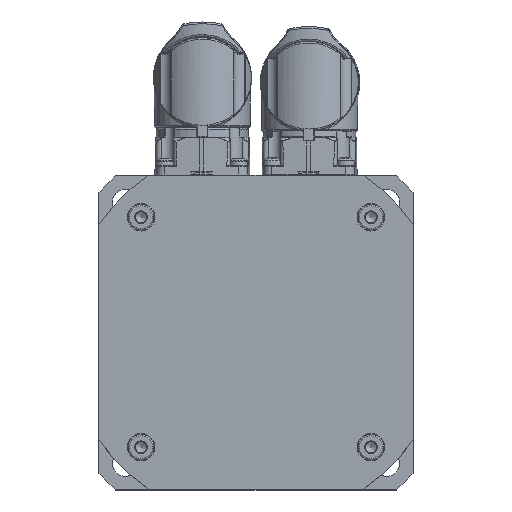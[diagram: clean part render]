
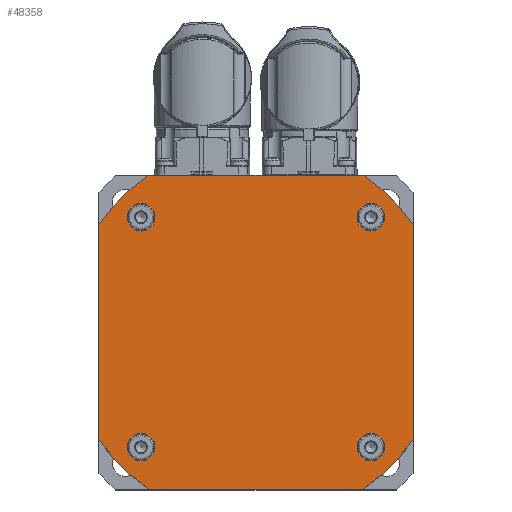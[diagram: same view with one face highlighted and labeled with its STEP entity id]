
A CAD part, top view. The second image highlights one B-rep face of the part: STEP entity #48358.
In plain terms, the highlighted planar face has unit normal (0, 0, 1).
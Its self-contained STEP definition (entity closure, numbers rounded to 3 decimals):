
#7391=LINE('',#70129,#9156);
#7397=LINE('',#70164,#9162);
#7400=LINE('',#70172,#9165);
#7404=LINE('',#70180,#9169);
#9156=VECTOR('',#57224,58.172);
#9162=VECTOR('',#57268,58.172);
#9165=VECTOR('',#57277,58.172);
#9169=VECTOR('',#57287,58.172);
#10887=PLANE('',#51540);
#11491=FACE_BOUND('',#15039,.T.);
#11492=FACE_BOUND('',#15040,.T.);
#11493=FACE_BOUND('',#15041,.T.);
#11494=FACE_BOUND('',#15042,.T.);
#11495=FACE_BOUND('',#15043,.T.);
#15039=EDGE_LOOP('',(#33265));
#15040=EDGE_LOOP('',(#33266));
#15041=EDGE_LOOP('',(#33267));
#15042=EDGE_LOOP('',(#33268));
#15043=EDGE_LOOP('',(#33269,#33270,#33271,#33272,#33273,#33274,#33275,#33276));
#18445=CIRCLE('',#51513,51.5);
#18446=CIRCLE('',#51516,3.75);
#18448=CIRCLE('',#51520,3.75);
#18450=CIRCLE('',#51524,3.75);
#18452=CIRCLE('',#51528,3.75);
#18454=CIRCLE('',#51532,51.5);
#18455=CIRCLE('',#51535,51.5);
#18456=CIRCLE('',#51538,51.5);
#21231=VERTEX_POINT('',#70122);
#21232=VERTEX_POINT('',#70124);
#21233=VERTEX_POINT('',#70128);
#21234=VERTEX_POINT('',#70133);
#21236=VERTEX_POINT('',#70139);
#21238=VERTEX_POINT('',#70145);
#21240=VERTEX_POINT('',#70151);
#21242=VERTEX_POINT('',#70157);
#21243=VERTEX_POINT('',#70159);
#21244=VERTEX_POINT('',#70166);
#21245=VERTEX_POINT('',#70171);
#21246=VERTEX_POINT('',#70175);
#25813=EDGE_CURVE('',#21232,#21231,#18445,.T.);
#25815=EDGE_CURVE('',#21233,#21232,#7391,.T.);
#25818=EDGE_CURVE('',#21234,#21234,#18446,.T.);
#25820=EDGE_CURVE('',#21236,#21236,#18448,.T.);
#25822=EDGE_CURVE('',#21238,#21238,#18450,.T.);
#25824=EDGE_CURVE('',#21240,#21240,#18452,.T.);
#25827=EDGE_CURVE('',#21243,#21242,#18454,.T.);
#25830=EDGE_CURVE('',#21231,#21243,#7397,.T.);
#25831=EDGE_CURVE('',#21244,#21233,#18455,.T.);
#25834=EDGE_CURVE('',#21245,#21244,#7400,.T.);
#25836=EDGE_CURVE('',#21246,#21245,#18456,.T.);
#25839=EDGE_CURVE('',#21242,#21246,#7404,.T.);
#33265=ORIENTED_EDGE('',*,*,#25818,.T.);
#33266=ORIENTED_EDGE('',*,*,#25820,.T.);
#33267=ORIENTED_EDGE('',*,*,#25822,.T.);
#33268=ORIENTED_EDGE('',*,*,#25824,.T.);
#33269=ORIENTED_EDGE('',*,*,#25839,.T.);
#33270=ORIENTED_EDGE('',*,*,#25836,.T.);
#33271=ORIENTED_EDGE('',*,*,#25834,.T.);
#33272=ORIENTED_EDGE('',*,*,#25831,.T.);
#33273=ORIENTED_EDGE('',*,*,#25815,.T.);
#33274=ORIENTED_EDGE('',*,*,#25813,.T.);
#33275=ORIENTED_EDGE('',*,*,#25830,.T.);
#33276=ORIENTED_EDGE('',*,*,#25827,.T.);
#48358=ADVANCED_FACE('',(#11491,#11492,#11493,#11494,#11495),#10887,.T.);
#51513=AXIS2_PLACEMENT_3D('',#70125,#57219,#57220);
#51516=AXIS2_PLACEMENT_3D('',#70134,#57229,#57230);
#51520=AXIS2_PLACEMENT_3D('',#70140,#57237,#57238);
#51524=AXIS2_PLACEMENT_3D('',#70146,#57245,#57246);
#51528=AXIS2_PLACEMENT_3D('',#70152,#57253,#57254);
#51532=AXIS2_PLACEMENT_3D('',#70160,#57262,#57263);
#51535=AXIS2_PLACEMENT_3D('',#70167,#57271,#57272);
#51538=AXIS2_PLACEMENT_3D('',#70176,#57281,#57282);
#51540=AXIS2_PLACEMENT_3D('',#70181,#57288,#57289);
#57219=DIRECTION('center_axis',(0.,0.,1.));
#57220=DIRECTION('ref_axis',(0.565,-0.825,0.));
#57224=DIRECTION('',(1.,0.,0.));
#57229=DIRECTION('center_axis',(0.,0.,-1.));
#57230=DIRECTION('ref_axis',(0.,-1.,0.));
#57237=DIRECTION('center_axis',(0.,0.,-1.));
#57238=DIRECTION('ref_axis',(-1.,0.,0.));
#57245=DIRECTION('center_axis',(0.,0.,-1.));
#57246=DIRECTION('ref_axis',(0.,1.,0.));
#57253=DIRECTION('center_axis',(0.,0.,-1.));
#57254=DIRECTION('ref_axis',(1.,0.,0.));
#57262=DIRECTION('center_axis',(0.,0.,1.));
#57263=DIRECTION('ref_axis',(0.825,0.565,0.));
#57268=DIRECTION('',(0.,1.,0.));
#57271=DIRECTION('center_axis',(0.,0.,1.));
#57272=DIRECTION('ref_axis',(-0.825,-0.565,0.));
#57277=DIRECTION('',(0.,-1.,0.));
#57281=DIRECTION('center_axis',(0.,0.,1.));
#57282=DIRECTION('ref_axis',(-0.565,0.825,0.));
#57287=DIRECTION('',(-1.,0.,0.));
#57288=DIRECTION('center_axis',(0.,0.,1.));
#57289=DIRECTION('ref_axis',(1.,0.,0.));
#70122=CARTESIAN_POINT('',(42.5,-29.086,130.));
#70124=CARTESIAN_POINT('',(29.086,-42.5,130.));
#70125=CARTESIAN_POINT('Origin',(0.,0.,130.));
#70128=CARTESIAN_POINT('',(-29.086,-42.5,130.));
#70129=CARTESIAN_POINT('',(-42.5,-42.5,130.));
#70133=CARTESIAN_POINT('',(31.113,-34.863,130.));
#70134=CARTESIAN_POINT('Origin',(31.113,-31.113,130.));
#70139=CARTESIAN_POINT('',(-34.863,-31.113,130.));
#70140=CARTESIAN_POINT('Origin',(-31.113,-31.113,130.));
#70145=CARTESIAN_POINT('',(-31.113,34.863,130.));
#70146=CARTESIAN_POINT('Origin',(-31.113,31.113,130.));
#70151=CARTESIAN_POINT('',(34.863,31.113,130.));
#70152=CARTESIAN_POINT('Origin',(31.113,31.113,130.));
#70157=CARTESIAN_POINT('',(29.086,42.5,130.));
#70159=CARTESIAN_POINT('',(42.5,29.086,130.));
#70160=CARTESIAN_POINT('Origin',(0.,0.,130.));
#70164=CARTESIAN_POINT('',(42.5,-42.5,130.));
#70166=CARTESIAN_POINT('',(-42.5,-29.086,130.));
#70167=CARTESIAN_POINT('Origin',(0.,0.,130.));
#70171=CARTESIAN_POINT('',(-42.5,29.086,130.));
#70172=CARTESIAN_POINT('',(-42.5,42.5,130.));
#70175=CARTESIAN_POINT('',(-29.086,42.5,130.));
#70176=CARTESIAN_POINT('Origin',(0.,0.,130.));
#70180=CARTESIAN_POINT('',(42.5,42.5,130.));
#70181=CARTESIAN_POINT('Origin',(0.,0.,
130.));
